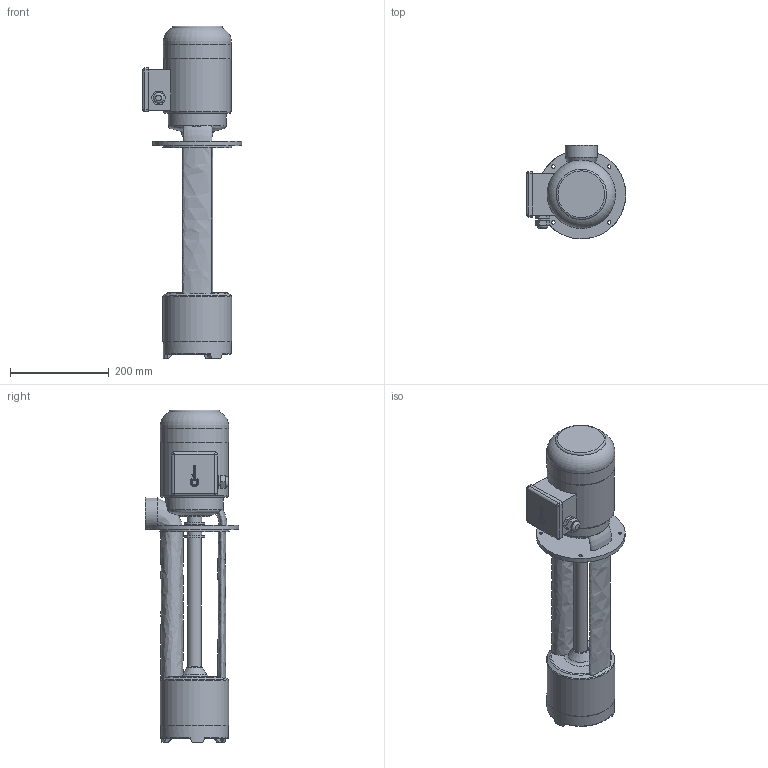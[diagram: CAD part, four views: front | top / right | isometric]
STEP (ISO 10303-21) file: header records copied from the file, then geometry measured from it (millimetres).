
FILE_DESCRIPTION(/* description */ ('Unknown'),/* implementation_level */ '2;1');
FILE_NAME(/* name */ 'EP 153-430',/* time_stamp */ '2023-03-30T13:42:38+03:00',/* author */ ('Unknown'),/* organization */ ('Unknown'),/* preprocessor_version */ 'ST-DEVELOPER v16.7',/* originating_system */ 'DEX',/* authorisation */ $);
FILE_SCHEMA (('AUTOMOTIVE_DESIGN {1 0 10303 214 3 1 1}'));
Length unit declared in the file: millimetre
Products named in the file (1): EP 153-430
Bounding box: 201.5 x 190 x 672.36 mm (x, y, z)
Volume: 6622931.4 mm3; surface area: 398589.3 mm2
Topology: 1 solids, 1 shells, 264 faces, 670 edges, 431 vertices
Faces by surface type: plane 91, bspline 81, cylinder 56, torus 26, cone 10
Full cylindrical faces by diameter (mm): 7 x4, 17 x1, 21.5 x1, 28 x1, 29 x3, 30 x1, 42 x2, 44 x1, 48 x1, 62 x1, 94 x1, 116.969 x1, 136.473 x1, 137 x1, 137.994 x1, 139 x1, 140 x1, 180 x1
Entity records: 11309 total; most frequent: CARTESIAN_POINT 5675, ORIENTED_EDGE 1204, DIRECTION 957, EDGE_CURVE 602, VERTEX_POINT 415, AXIS2_PLACEMENT_3D 364, EDGE_LOOP 355, FACE_BOUND 355
